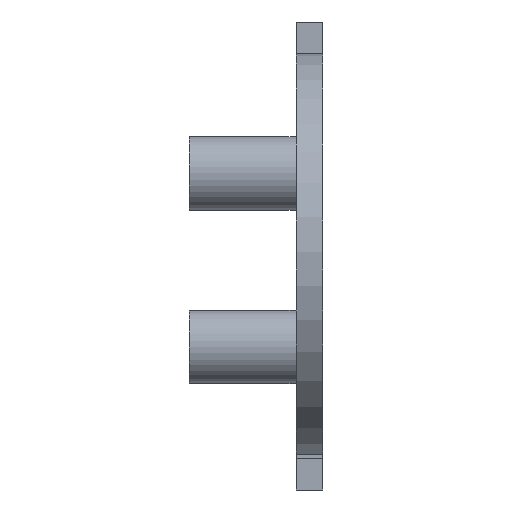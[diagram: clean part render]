
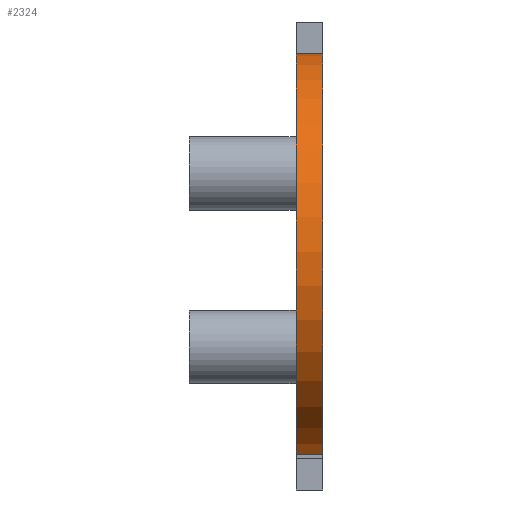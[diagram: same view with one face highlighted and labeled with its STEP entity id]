
A CAD part, left-side view. The second image highlights one B-rep face of the part: STEP entity #2324.
In plain terms, the highlighted cylindrical face has radius 15.19 mm (diameter 30.38 mm), a partial arc.
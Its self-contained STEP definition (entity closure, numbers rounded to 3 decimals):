
#106 = PLANE('',#107);
#107 = AXIS2_PLACEMENT_3D('',#108,#109,#110);
#108 = CARTESIAN_POINT('',(0.,2.,0.));
#109 = DIRECTION('',(0.,1.,0.));
#110 = DIRECTION('',(0.,-0.,1.));
#689 = PLANE('',#690);
#690 = AXIS2_PLACEMENT_3D('',#691,#692,#693);
#691 = CARTESIAN_POINT('',(0.,0.,0.));
#692 = DIRECTION('',(0.,1.,0.));
#693 = DIRECTION('',(0.,-0.,1.));
#1372 = VERTEX_POINT('',#1373);
#1373 = CARTESIAN_POINT('',(-3.25,2.,-14.838));
#1387 = PLANE('',#1388);
#1388 = AXIS2_PLACEMENT_3D('',#1389,#1390,#1391);
#1389 = CARTESIAN_POINT('',(-3.25,-0.12,-19.35));
#1390 = DIRECTION('',(1.,0.,-0.));
#1391 = DIRECTION('',(-0.,0.,-1.));
#1399 = EDGE_CURVE('',#1372,#1400,#1402,.T.);
#1400 = VERTEX_POINT('',#1401);
#1401 = CARTESIAN_POINT('',(0.,2.,15.19));
#1402 = SURFACE_CURVE('',#1403,(#1408,#1415),.PCURVE_S1.);
#1403 = CIRCLE('',#1404,15.19);
#1404 = AXIS2_PLACEMENT_3D('',#1405,#1406,#1407);
#1405 = CARTESIAN_POINT('',(0.,2.,0.));
#1406 = DIRECTION('',(0.,1.,0.));
#1407 = DIRECTION('',(0.,0.,-1.));
#1408 = PCURVE('',#106,#1409);
#1409 = DEFINITIONAL_REPRESENTATION('',(#1410),#1414);
#1410 = CIRCLE('',#1411,15.19);
#1411 = AXIS2_PLACEMENT_2D('',#1412,#1413);
#1412 = CARTESIAN_POINT('',(0.,0.));
#1413 = DIRECTION('',(-1.,0.));
#1414 = ( GEOMETRIC_REPRESENTATION_CONTEXT(2) 
PARAMETRIC_REPRESENTATION_CONTEXT() REPRESENTATION_CONTEXT('2D SPACE',''
  ) );
#1415 = PCURVE('',#1416,#1421);
#1416 = CYLINDRICAL_SURFACE('',#1417,15.19);
#1417 = AXIS2_PLACEMENT_3D('',#1418,#1419,#1420);
#1418 = CARTESIAN_POINT('',(0.,2.,0.));
#1419 = DIRECTION('',(-0.,-1.,-0.));
#1420 = DIRECTION('',(0.,0.,-1.));
#1421 = DEFINITIONAL_REPRESENTATION('',(#1422),#1426);
#1422 = LINE('',#1423,#1424);
#1423 = CARTESIAN_POINT('',(6.283,0.));
#1424 = VECTOR('',#1425,1.);
#1425 = DIRECTION('',(-1.,0.));
#1426 = ( GEOMETRIC_REPRESENTATION_CONTEXT(2) 
PARAMETRIC_REPRESENTATION_CONTEXT() REPRESENTATION_CONTEXT('2D SPACE',''
  ) );
#1444 = PLANE('',#1445);
#1445 = AXIS2_PLACEMENT_3D('',#1446,#1447,#1448);
#1446 = CARTESIAN_POINT('',(0.,2.,15.19));
#1447 = DIRECTION('',(0.,0.,-1.));
#1448 = DIRECTION('',(-1.,0.,-0.));
#2281 = EDGE_CURVE('',#2282,#1400,#2284,.T.);
#2282 = VERTEX_POINT('',#2283);
#2283 = CARTESIAN_POINT('',(0.,0.,15.19));
#2284 = SURFACE_CURVE('',#2285,(#2289,#2296),.PCURVE_S1.);
#2285 = LINE('',#2286,#2287);
#2286 = CARTESIAN_POINT('',(0.,2.,15.19));
#2287 = VECTOR('',#2288,1.);
#2288 = DIRECTION('',(0.,1.,0.));
#2289 = PCURVE('',#1444,#2290);
#2290 = DEFINITIONAL_REPRESENTATION('',(#2291),#2295);
#2291 = LINE('',#2292,#2293);
#2292 = CARTESIAN_POINT('',(0.,0.));
#2293 = VECTOR('',#2294,1.);
#2294 = DIRECTION('',(0.,1.));
#2295 = ( GEOMETRIC_REPRESENTATION_CONTEXT(2) 
PARAMETRIC_REPRESENTATION_CONTEXT() REPRESENTATION_CONTEXT('2D SPACE',''
  ) );
#2296 = PCURVE('',#1416,#2297);
#2297 = DEFINITIONAL_REPRESENTATION('',(#2298),#2302);
#2298 = LINE('',#2299,#2300);
#2299 = CARTESIAN_POINT('',(3.142,0.));
#2300 = VECTOR('',#2301,1.);
#2301 = DIRECTION('',(0.,-1.));
#2302 = ( GEOMETRIC_REPRESENTATION_CONTEXT(2) 
PARAMETRIC_REPRESENTATION_CONTEXT() REPRESENTATION_CONTEXT('2D SPACE',''
  ) );
#2324 = ADVANCED_FACE('',(#2325),#1416,.T.);
#2325 = FACE_BOUND('',#2326,.T.);
#2326 = EDGE_LOOP('',(#2327,#2328,#2329,#2352));
#2327 = ORIENTED_EDGE('',*,*,#2281,.T.);
#2328 = ORIENTED_EDGE('',*,*,#1399,.F.);
#2329 = ORIENTED_EDGE('',*,*,#2330,.T.);
#2330 = EDGE_CURVE('',#1372,#2331,#2333,.T.);
#2331 = VERTEX_POINT('',#2332);
#2332 = CARTESIAN_POINT('',(-3.25,0.,-14.838));
#2333 = SURFACE_CURVE('',#2334,(#2338,#2345),.PCURVE_S1.);
#2334 = LINE('',#2335,#2336);
#2335 = CARTESIAN_POINT('',(-3.25,2.,-14.838));
#2336 = VECTOR('',#2337,1.);
#2337 = DIRECTION('',(-0.,-1.,-0.));
#2338 = PCURVE('',#1416,#2339);
#2339 = DEFINITIONAL_REPRESENTATION('',(#2340),#2344);
#2340 = LINE('',#2341,#2342);
#2341 = CARTESIAN_POINT('',(6.068,0.));
#2342 = VECTOR('',#2343,1.);
#2343 = DIRECTION('',(0.,1.));
#2344 = ( GEOMETRIC_REPRESENTATION_CONTEXT(2) 
PARAMETRIC_REPRESENTATION_CONTEXT() REPRESENTATION_CONTEXT('2D SPACE',''
  ) );
#2345 = PCURVE('',#1387,#2346);
#2346 = DEFINITIONAL_REPRESENTATION('',(#2347),#2351);
#2347 = LINE('',#2348,#2349);
#2348 = CARTESIAN_POINT('',(-4.512,2.12));
#2349 = VECTOR('',#2350,1.);
#2350 = DIRECTION('',(0.,-1.));
#2351 = ( GEOMETRIC_REPRESENTATION_CONTEXT(2) 
PARAMETRIC_REPRESENTATION_CONTEXT() REPRESENTATION_CONTEXT('2D SPACE',''
  ) );
#2352 = ORIENTED_EDGE('',*,*,#2353,.T.);
#2353 = EDGE_CURVE('',#2331,#2282,#2354,.T.);
#2354 = SURFACE_CURVE('',#2355,(#2360,#2367),.PCURVE_S1.);
#2355 = CIRCLE('',#2356,15.19);
#2356 = AXIS2_PLACEMENT_3D('',#2357,#2358,#2359);
#2357 = CARTESIAN_POINT('',(0.,0.,0.));
#2358 = DIRECTION('',(0.,1.,0.));
#2359 = DIRECTION('',(0.,0.,-1.));
#2360 = PCURVE('',#1416,#2361);
#2361 = DEFINITIONAL_REPRESENTATION('',(#2362),#2366);
#2362 = LINE('',#2363,#2364);
#2363 = CARTESIAN_POINT('',(6.283,2.));
#2364 = VECTOR('',#2365,1.);
#2365 = DIRECTION('',(-1.,0.));
#2366 = ( GEOMETRIC_REPRESENTATION_CONTEXT(2) 
PARAMETRIC_REPRESENTATION_CONTEXT() REPRESENTATION_CONTEXT('2D SPACE',''
  ) );
#2367 = PCURVE('',#689,#2368);
#2368 = DEFINITIONAL_REPRESENTATION('',(#2369),#2373);
#2369 = CIRCLE('',#2370,15.19);
#2370 = AXIS2_PLACEMENT_2D('',#2371,#2372);
#2371 = CARTESIAN_POINT('',(0.,0.));
#2372 = DIRECTION('',(-1.,0.));
#2373 = ( GEOMETRIC_REPRESENTATION_CONTEXT(2) 
PARAMETRIC_REPRESENTATION_CONTEXT() REPRESENTATION_CONTEXT('2D SPACE',''
  ) );
